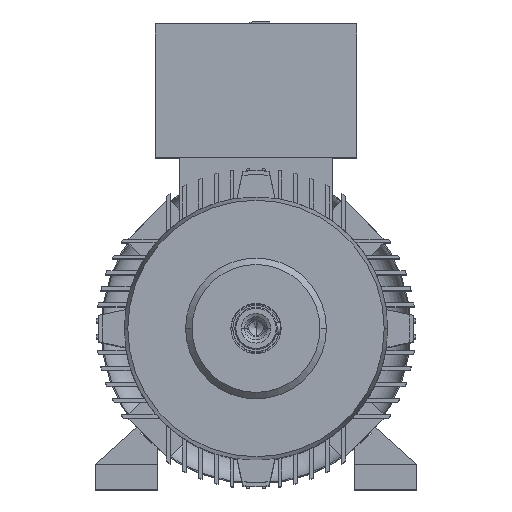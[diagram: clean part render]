
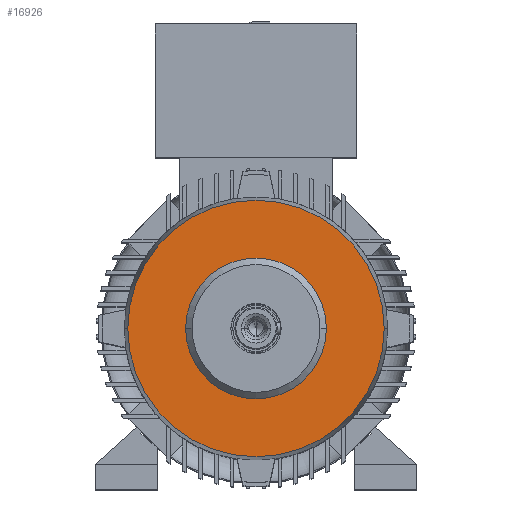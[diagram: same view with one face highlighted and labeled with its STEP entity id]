
A CAD part, top view. The second image highlights one B-rep face of the part: STEP entity #16926.
In plain terms, the highlighted planar face has unit normal (0, 0, 1).
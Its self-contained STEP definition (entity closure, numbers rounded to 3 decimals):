
#207 = DIRECTION ( 'NONE',  ( 0., 0., -1. ) ) ;
#439 = PLANE ( 'NONE',  #10788 ) ;
#739 = CARTESIAN_POINT ( 'NONE',  ( 0., 0., 226.6 ) ) ;
#933 = VERTEX_POINT ( 'NONE', #20983 ) ;
#1092 = CIRCLE ( 'NONE', #17014, 70. ) ;
#2203 = AXIS2_PLACEMENT_3D ( 'NONE', #9843, #22539, #18924 ) ;
#3533 = EDGE_CURVE ( 'NONE', #16510, #933, #21234, .T. ) ;
#4996 = EDGE_CURVE ( 'NONE', #20007, #12765, #6022, .T. ) ;
#5457 = DIRECTION ( 'NONE',  ( 1., 0., 0. ) ) ;
#5576 = CARTESIAN_POINT ( 'NONE',  ( 127.565, 0., 226.6 ) ) ;
#5741 = DIRECTION ( 'NONE',  ( 1., 0., 0. ) ) ;
#5914 = CARTESIAN_POINT ( 'NONE',  ( 0., 0., 226.6 ) ) ;
#6022 = CIRCLE ( 'NONE', #11353, 70. ) ;
#6077 = DIRECTION ( 'NONE',  ( 0., 0., 1. ) ) ;
#6177 = DIRECTION ( 'NONE',  ( 1., 0., 0. ) ) ;
#6878 = ORIENTED_EDGE ( 'NONE', *, *, #4996, .T. ) ;
#7131 = CARTESIAN_POINT ( 'NONE',  ( 0., 0., 226.6 ) ) ;
#7208 = FACE_BOUND ( 'NONE', #23064, .T. ) ;
#7825 = CARTESIAN_POINT ( 'NONE',  ( 0., 127.565, 226.6 ) ) ;
#9142 = FACE_OUTER_BOUND ( 'NONE', #12094, .T. ) ;
#9827 = DIRECTION ( 'NONE',  ( 0., 0., -1. ) ) ;
#9843 = CARTESIAN_POINT ( 'NONE',  ( 0., 0., 226.6 ) ) ;
#10456 = CIRCLE ( 'NONE', #14159, 127.565 ) ;
#10722 = ORIENTED_EDGE ( 'NONE', *, *, #3533, .T. ) ;
#10788 = AXIS2_PLACEMENT_3D ( 'NONE', #7825, #11173, #13196 ) ;
#11173 = DIRECTION ( 'NONE',  ( 0., 0., -1. ) ) ;
#11353 = AXIS2_PLACEMENT_3D ( 'NONE', #7131, #207, #5457 ) ;
#12094 = EDGE_LOOP ( 'NONE', ( #10722, #15546 ) ) ;
#12765 = VERTEX_POINT ( 'NONE', #22836 ) ;
#13196 = DIRECTION ( 'NONE',  ( 1., 0., 0. ) ) ;
#14159 = AXIS2_PLACEMENT_3D ( 'NONE', #5914, #6077, #5741 ) ;
#14959 = EDGE_CURVE ( 'NONE', #12765, #20007, #1092, .T. ) ;
#15546 = ORIENTED_EDGE ( 'NONE', *, *, #18974, .T. ) ;
#15772 = CARTESIAN_POINT ( 'NONE',  ( -70., 0., 226.6 ) ) ;
#16510 = VERTEX_POINT ( 'NONE', #5576 ) ;
#16926 = ADVANCED_FACE ( 'NONE', ( #9142, #7208 ), #439, .F. ) ;
#17014 = AXIS2_PLACEMENT_3D ( 'NONE', #739, #9827, #6177 ) ;
#18924 = DIRECTION ( 'NONE',  ( 1., 0., 0. ) ) ;
#18974 = EDGE_CURVE ( 'NONE', #933, #16510, #10456, .T. ) ;
#20007 = VERTEX_POINT ( 'NONE', #15772 ) ;
#20983 = CARTESIAN_POINT ( 'NONE',  ( -127.565, 0., 226.6 ) ) ;
#21234 = CIRCLE ( 'NONE', #2203, 127.565 ) ;
#22539 = DIRECTION ( 'NONE',  ( 0., 0., 1. ) ) ;
#22575 = ORIENTED_EDGE ( 'NONE', *, *, #14959, .T. ) ;
#22836 = CARTESIAN_POINT ( 'NONE',  ( 70., 0., 226.6 ) ) ;
#23064 = EDGE_LOOP ( 'NONE', ( #22575, #6878 ) ) ;
